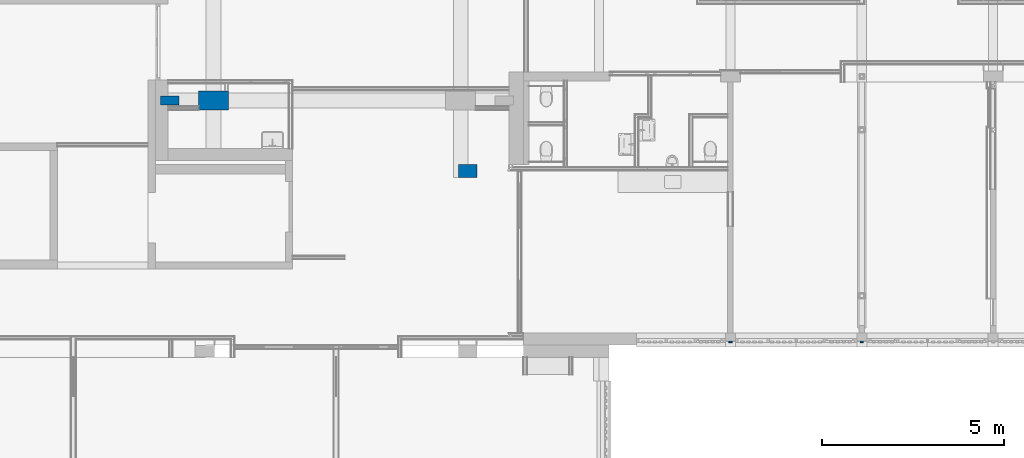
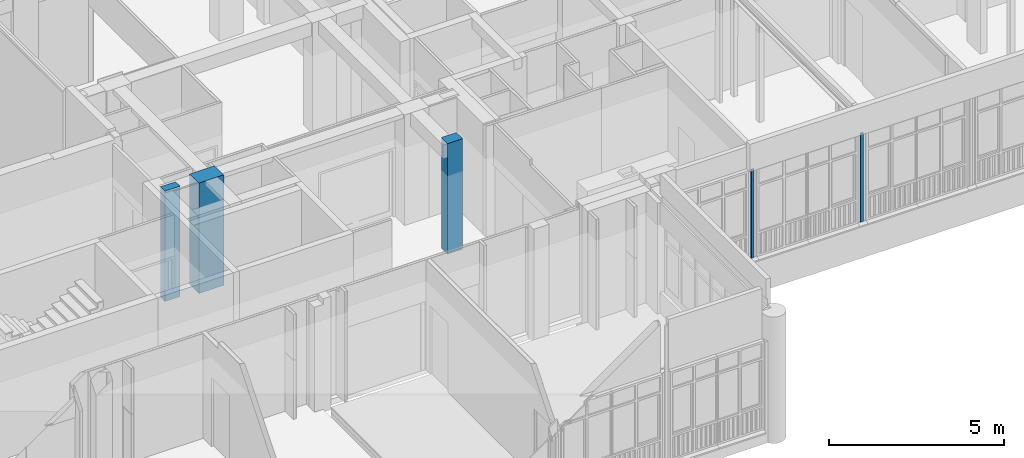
# One storey, part 49 of 135: 5 columns.
"""IFC2X3 building model written with IfcOpenShell, lengths in millimetres."""

from ifc_helpers import new_model, entity, si_unit, converted_unit, derived_unit, money_unit, direction, frame, origin_with_axes, place, context, subcontext, project, spatial, faceted_brep, material, type_object, element, save


model = new_model("IFC2X3")

# Units and contexts
model_context = context("Model", 3, precision=0.01, world=origin_with_axes(), true_north=direction((0.0, 1.0)))
body_context = subcontext(model_context, "Body", "Model", "MODEL_VIEW")
ifc_project = project(units=[si_unit("LENGTHUNIT", "METRE", prefix="MILLI"), si_unit("AREAUNIT", "SQUARE_METRE"), si_unit("VOLUMEUNIT", "CUBIC_METRE"), converted_unit("PLANEANGLEUNIT", "DEGREE", entity("IfcPlaneAngleMeasure", 0.0174532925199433), si_unit("PLANEANGLEUNIT", "RADIAN"), dimensions=[0, 0, 0, 0, 0, 0, 0]), money_unit("EUR"), converted_unit("TIMEUNIT", "Year", entity("IfcTimeMeasure", 31557600.0), si_unit("TIMEUNIT", "SECOND"), dimensions=[0, 0, 1, 0, 0, 0, 0]), si_unit("MASSUNIT", "GRAM", prefix="KILO"), si_unit("THERMODYNAMICTEMPERATUREUNIT", "DEGREE_CELSIUS"), si_unit("LUMINOUSINTENSITYUNIT", "LUMEN"), si_unit("ENERGYUNIT", "JOULE", prefix="MEGA"), derived_unit("THERMALCONDUCTANCEUNIT", [(si_unit("POWERUNIT", "WATT"), 1), (si_unit("LENGTHUNIT", "METRE"), -1), (si_unit("THERMODYNAMICTEMPERATUREUNIT", "KELVIN"), -1)]), derived_unit("SPECIFICHEATCAPACITYUNIT", [(si_unit("ENERGYUNIT", "JOULE"), 1), (si_unit("MASSUNIT", "GRAM", prefix="KILO"), -1), (si_unit("THERMODYNAMICTEMPERATUREUNIT", "KELVIN"), -1)]), derived_unit("MASSDENSITYUNIT", [(si_unit("MASSUNIT", "GRAM", prefix="KILO"), 1), (si_unit("VOLUMEUNIT", "CUBIC_METRE"), -1)])], contexts=[model_context])

# Site, building, storey
site_placement = place(None, origin_with_axes())
site = spatial("IfcSite", under=ifc_project, at=site_placement, Name="Site", CompositionType="ELEMENT")
building_placement = place(site_placement, origin_with_axes())
building = spatial("IfcBuilding", under=site, at=building_placement, Name="Naam gebouw", CompositionType="ELEMENT")
storey_placement = place(building_placement, origin_with_axes())
storey = spatial("IfcBuildingStorey", under=building, at=storey_placement, Name="Begane grond N", CompositionType="ELEMENT", Elevation=0.0)

# Columns
ifc_material_1 = material(Name="ALG - CONSTRUCTIEF KOLOM")
column_type_1 = type_object("IfcColumnType", Name="ALG - CONSTRUCTIEF KOLOM 525 x 820", PredefinedType="COLUMN")
column_1_placement = place(storey_placement, frame((21836.0, 17365.91242510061, -100.0), z_axis=(0.0, 0.0, 1.0), x_axis=(0.0, -1.0, 0.0)))
element("IfcColumn", 1, at=column_1_placement, inside=storey, type_object=column_type_1, material=ifc_material_1, Name="_Kolom-x", ObjectType="COLUMN", context=body_context, shape_type="Brep", body=[
    faceted_brep([(262.4999999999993, 410.0000000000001, 3950.0), (262.4999999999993, 410.0000000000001, 100.0), (-262.4999999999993, 410.0000000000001, 100.0), (-262.4999999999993, 410.0000000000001, 3950.0), (262.4999999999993, -410.0000000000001, 3950.0), (262.4999999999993, -410.0000000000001, 100.0), (-262.4999999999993, -410.0000000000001, 100.0), (-262.4999999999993, -410.0000000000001, 3950.0)], [[[0, 1, 2, 3]], [[4, 5, 1, 0]], [[5, 6, 2, 1]], [[3, 2, 6, 7]], [[4, 0, 3, 7]], [[7, 6, 5, 4]]]),
])
column_type_2 = type_object("IfcColumnType", Name="ALG - CONSTRUCTIEF KOLOM 500 x 355", PredefinedType="COLUMN")
column_2_placement = place(storey_placement, frame((28800.0, 15430.91242510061, -100.0), z_axis=(0.0, 0.0, 1.0), x_axis=(1.0, 0.0, 0.0)))
element("IfcColumn", 2, at=column_2_placement, inside=storey, type_object=column_type_2, material=ifc_material_1, Name="_Kolom-x", ObjectType="COLUMN", context=body_context, shape_type="Brep", body=[
    faceted_brep([(250.0, -177.5000000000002, 3950.0), (250.0, -177.5000000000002, 100.0), (250.0, 177.5000000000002, 100.0), (250.0, 177.5000000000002, 3950.0), (-250.0, -177.5000000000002, 3950.0), (-250.0, -177.5000000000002, 100.0), (-250.0, 177.5000000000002, 100.0), (-250.0, 177.5000000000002, 3950.0)], [[[0, 1, 2, 3]], [[4, 5, 1, 0]], [[5, 6, 2, 1]], [[3, 2, 6, 7]], [[4, 0, 3, 7]], [[7, 6, 5, 4]]]),
])
column_type_3 = type_object("IfcColumnType", Name="ALG - CONSTRUCTIEF KOLOM 250 x 500", PredefinedType="COLUMN")
column_3_placement = place(storey_placement, frame((20636.0, 17365.91242510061, -100.0), z_axis=(0.0, 0.0, 1.0), x_axis=(0.0, -1.0, 0.0)))
element("IfcColumn", 3, at=column_3_placement, inside=storey, type_object=column_type_3, material=ifc_material_1, Name="_Kolom-x", ObjectType="COLUMN", context=body_context, shape_type="Brep", body=[
    faceted_brep([(125.0, 250.0, 3950.0), (125.0, 250.0, 100.0), (-125.0, 250.0, 100.0), (-125.0, 250.0, 3950.0), (125.0, -250.0, 3950.0), (125.0, -250.0, 100.0), (-125.0, -250.0, 100.0), (-125.0, -250.0, 3950.0)], [[[0, 1, 2, 3]], [[4, 5, 1, 0]], [[5, 6, 2, 1]], [[3, 2, 6, 7]], [[4, 0, 3, 7]], [[7, 6, 5, 4]]]),
])
ifc_material_2 = material(Name="Metaal - Staal C")
column_type_4 = type_object("IfcColumnType", Name="Metaal - Staal C 90 x 44", PredefinedType="COLUMN")
for number, where, z_axis, x_axis, name in (
    (4, (39599.99999999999, 10752.91242510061, 0.0), (0.0, 0.0, 1.0), (1.0, 0.0, 0.0), "_Kolom-x"),
    (5, (35999.99999999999, 10752.91242510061, 0.0), (0.0, 0.0, 1.0), (1.0, 0.0, 0.0), "_Kolom-x"),
):
    element("IfcColumn", number, at=place(storey_placement, frame(where, z_axis=z_axis, x_axis=x_axis)), inside=storey, type_object=column_type_4, material=ifc_material_2, Name=name, ObjectType="COLUMN", context=body_context, shape_type="Brep", body=[
        faceted_brep([(-45.00000000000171, -22.00000000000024, 3090.000000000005), (-45.00000000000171, -22.00000000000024, 0.0), (45.00000000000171, -22.00000000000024, 0.0), (45.00000000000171, -22.00000000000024, 3090.000000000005), (-45.00000000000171, 22.00000000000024, 3090.000000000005), (-45.00000000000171, 22.00000000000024, 0.0), (45.00000000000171, 22.00000000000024, 0.0), (45.00000000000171, 22.00000000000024, 3090.000000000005)], [[[0, 1, 2, 3]], [[4, 5, 1, 0]], [[2, 1, 5, 6]], [[3, 2, 6, 7]], [[4, 0, 3, 7]], [[7, 6, 5, 4]]]),
    ])

save(model, "model.ifc")
